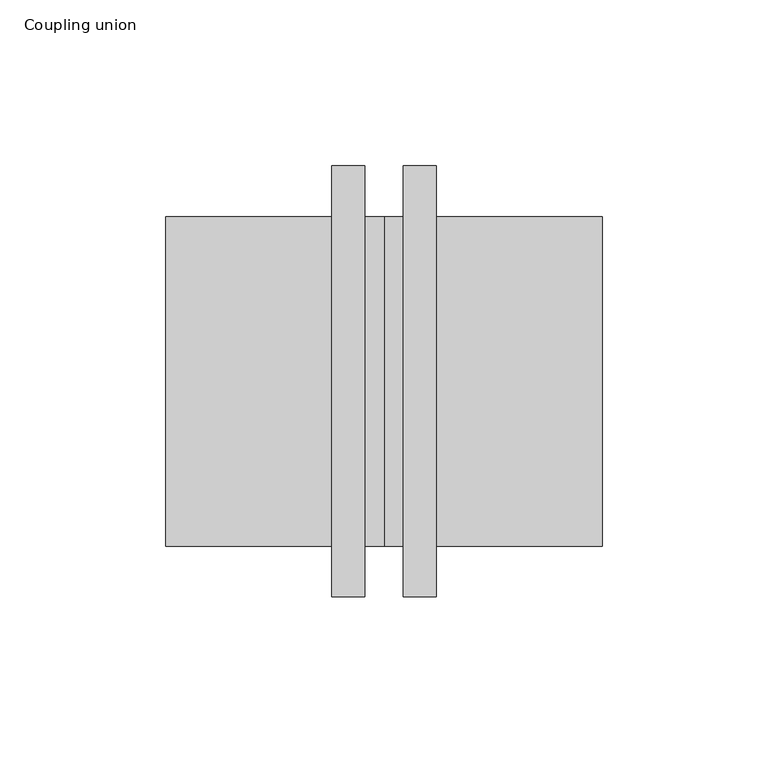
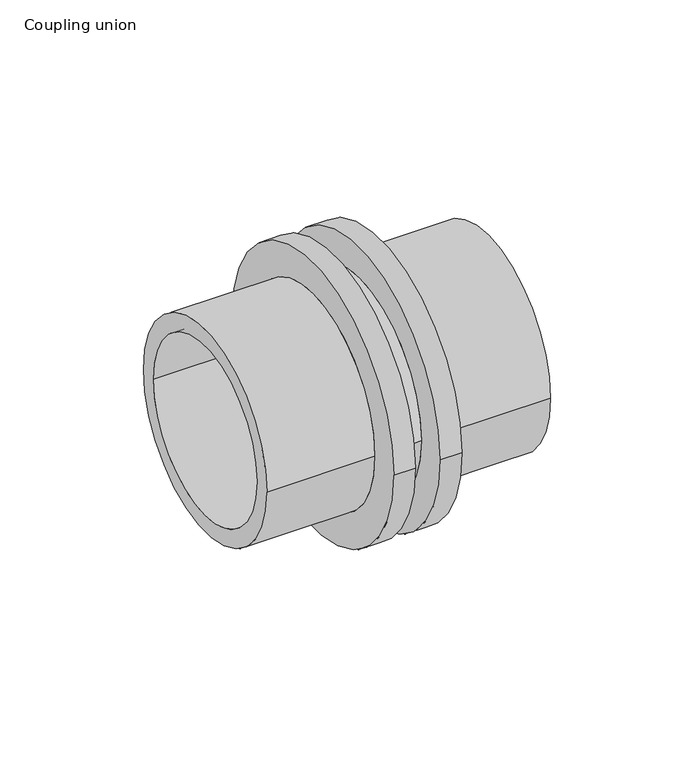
"""IFC4 building model written with IfcOpenShell, lengths in millimetres: pipe fitting geometry, Coupling union : C EQ SDR11 RX."""

from ifc_helpers import new_model, si_unit, frame, origin, place, context, project, spatial, polyline, circle_curve, source, transform, mapped, element, save
from ifc_brep_helpers import plane_surface, cylinder_surface, revolved_surface, advanced_brep


def coupling_union_132477e5(model_context):
    return source(origin(), model_context, "Body", "AdvancedBrep", [
        advanced_brep(
        [(15.8, 65.0, 0.0), (15.8, -65.0, 0.0), (5.8, -65.0, 0.0), (5.8, 65.0, 0.0), (65.8, 49.65, 0.0), (65.8, -49.65, 0.0), (15.8, -49.65, 0.0), (15.8, 49.65, 0.0), (-65.8, 41.5, 0.0), (-65.8, -41.5, 0.0), (65.8, -41.5, 0.0), (65.8, 41.5, 0.0), (-15.8, 49.65, 0.0), (-15.8, -49.65, 0.0), (-65.8, -49.65, 0.0), (-65.8, 49.65, 0.0), (-5.8, 65.0, 0.0), (-5.8, -65.0, 0.0), (-15.8, -65.0, 0.0), (-15.8, 65.0, 0.0), (0.0, 49.65, 0.0), (0.0, -49.65, 0.0), (-5.8, -49.65, 0.0), (-5.8, 49.65, 0.0), (5.8, 49.65, 0.0), (5.8, -49.65, 0.0)],
        [
            (0, 1, circle_curve(frame((15.8, 0.0, 0.0), z_axis=(-1.0, 0.0, 0.0), x_axis=(0.0, -1.0, 0.0)), 65.0)),
            (1, 2),
            (2, 3, circle_curve(frame((5.8, 0.0, 0.0), z_axis=(1.0, 0.0, 0.0), x_axis=(0.0, -1.0, 0.0)), 65.0)),
            (3, 0),
            (4, 5, circle_curve(frame((65.8, 0.0, 0.0), z_axis=(-1.0, 0.0, 0.0), x_axis=(0.0, -1.0, 0.0)), 49.65)),
            (5, 6),
            (6, 7, circle_curve(frame((15.8, 0.0, 0.0), z_axis=(1.0, 0.0, 0.0), x_axis=(0.0, -1.0, 0.0)), 49.65)),
            (7, 4),
            (8, 9, circle_curve(frame((-65.8, 0.0, 0.0), z_axis=(-1.0, 0.0, 0.0), x_axis=(0.0, -1.0, 0.0)), 41.5)),
            (9, 10),
            (10, 11, circle_curve(frame((65.8, 0.0, 0.0), z_axis=(1.0, 0.0, 0.0), x_axis=(0.0, -1.0, 0.0)), 41.5)),
            (11, 8),
            (12, 13, circle_curve(frame((-15.8, 0.0, 0.0), z_axis=(-1.0, 0.0, 0.0), x_axis=(0.0, -1.0, 0.0)), 49.65)),
            (13, 14),
            (14, 15, circle_curve(frame((-65.8, 0.0, 0.0), z_axis=(1.0, 0.0, 0.0), x_axis=(0.0, -1.0, 0.0)), 49.65)),
            (15, 12),
            (16, 17, circle_curve(frame((-5.8, 0.0, 0.0), z_axis=(-1.0, 0.0, 0.0), x_axis=(0.0, -1.0, 0.0)), 65.0)),
            (17, 18),
            (18, 19, circle_curve(frame((-15.8, 0.0, 0.0), z_axis=(1.0, 0.0, 0.0), x_axis=(0.0, -1.0, 0.0)), 65.0)),
            (19, 16),
            (20, 21, circle_curve(frame((0.0, 0.0, 0.0), z_axis=(-1.0, 0.0, 0.0), x_axis=(0.0, -1.0, 0.0)), 49.65)),
            (21, 22),
            (22, 23, circle_curve(frame((-5.8, 0.0, 0.0), z_axis=(1.0, 0.0, 0.0), x_axis=(0.0, -1.0, 0.0)), 49.65)),
            (23, 20),
            (24, 25, circle_curve(frame((5.8, 0.0, 0.0), z_axis=(-1.0, 0.0, 0.0), x_axis=(0.0, -1.0, 0.0)), 49.65)),
            (25, 21),
            (20, 24),
            (1, 0, circle_curve(frame((15.8, 0.0, 0.0), z_axis=(-1.0, 0.0, 0.0), x_axis=(0.0, 1.0, 0.0)), 65.0)),
            (3, 2, circle_curve(frame((5.8, 0.0, 0.0), z_axis=(1.0, 0.0, 0.0), x_axis=(0.0, 1.0, 0.0)), 65.0)),
            (6, 7, circle_curve(frame((15.8, 0.0, 0.0), z_axis=(-1.0, 0.0, 0.0), x_axis=(0.0, 1.0, 0.0)), 49.65)),
            (5, 4, circle_curve(frame((65.8, 0.0, 0.0), z_axis=(-1.0, 0.0, 0.0), x_axis=(0.0, 1.0, 0.0)), 49.65)),
            (10, 11, circle_curve(frame((65.8, 0.0, 0.0), z_axis=(-1.0, 0.0, 0.0), x_axis=(0.0, 1.0, 0.0)), 41.5)),
            (9, 8, circle_curve(frame((-65.8, 0.0, 0.0), z_axis=(-1.0, 0.0, 0.0), x_axis=(0.0, 1.0, 0.0)), 41.5)),
            (14, 15, circle_curve(frame((-65.8, 0.0, 0.0), z_axis=(-1.0, 0.0, 0.0), x_axis=(0.0, 1.0, 0.0)), 49.65)),
            (13, 12, circle_curve(frame((-15.8, 0.0, 0.0), z_axis=(-1.0, 0.0, 0.0), x_axis=(0.0, 1.0, 0.0)), 49.65)),
            (18, 19, circle_curve(frame((-15.8, 0.0, 0.0), z_axis=(-1.0, 0.0, 0.0), x_axis=(0.0, 1.0, 0.0)), 65.0)),
            (17, 16, circle_curve(frame((-5.8, 0.0, 0.0), z_axis=(-1.0, 0.0, 0.0), x_axis=(0.0, 1.0, 0.0)), 65.0)),
            (22, 23, circle_curve(frame((-5.8, 0.0, 0.0), z_axis=(-1.0, 0.0, 0.0), x_axis=(0.0, 1.0, 0.0)), 49.65)),
            (21, 20, circle_curve(frame((0.0, 0.0, 0.0), z_axis=(-1.0, 0.0, 0.0), x_axis=(0.0, 1.0, 0.0)), 49.65)),
            (25, 24, circle_curve(frame((5.8, 0.0, 0.0), z_axis=(-1.0, 0.0, 0.0), x_axis=(0.0, 1.0, 0.0)), 49.65)),
        ],
        [
            cylinder_surface(frame((0.0, 0.0, 0.0), z_axis=(1.0, 0.0, 0.0), x_axis=(0.0, -1.0, 0.0)), 65.0),
            cylinder_surface(frame((0.0, 0.0, 0.0), z_axis=(1.0, 0.0, 0.0), x_axis=(0.0, -1.0, 0.0)), 49.65),
            revolved_surface(polyline([(65.8, -41.5, 0.0), (-65.8, -41.5, 0.0)]), (0.0, 0.0, 0.0), (1.0, 0.0, 0.0)),
            cylinder_surface(frame((0.0, 0.0, 0.0), z_axis=(1.0, 0.0, 0.0), x_axis=(0.0, 1.0, 0.0)), 65.0),
            plane_surface(frame((15.8, 0.0, 0.0), z_axis=(1.0, 0.0, 0.0), x_axis=(0.0, 1.0, 0.0))),
            cylinder_surface(frame((0.0, 0.0, 0.0), z_axis=(1.0, 0.0, 0.0), x_axis=(0.0, 1.0, 0.0)), 49.65),
            plane_surface(frame((65.8, 0.0, 0.0), z_axis=(1.0, 0.0, 0.0), x_axis=(0.0, 1.0, 0.0))),
            revolved_surface(polyline([(65.8, 41.5, 0.0), (-65.8, 41.5, 0.0)]), (0.0, 0.0, 0.0), (1.0, 0.0, 0.0)),
            plane_surface(frame((-65.8, 0.0, 0.0), z_axis=(-1.0, 0.0, 0.0), x_axis=(0.0, 1.0, 0.0))),
            plane_surface(frame((-15.8, 0.0, 0.0), z_axis=(-1.0, 0.0, 0.0), x_axis=(0.0, 1.0, 0.0))),
            plane_surface(frame((-5.8, 0.0, 0.0), z_axis=(1.0, 0.0, 0.0), x_axis=(0.0, 1.0, 0.0))),
            plane_surface(frame((5.8, 0.0, 0.0), z_axis=(-1.0, 0.0, 0.0), x_axis=(0.0, 1.0, 0.0))),
        ],
        [
            (0, [[1, 2, 3, 4]]),
            (1, [[5, 6, 7, 8]]),
            (2, [[9, 10, 11, 12]]),
            (1, [[13, 14, 15, 16]]),
            (0, [[17, 18, 19, 20]]),
            (1, [[21, 22, 23, 24]]),
            (1, [[25, 26, -21, 27]]),
            (3, [[28, -4, 29, -2]]),
            (4, [[-28, -1], [30, -7]]),
            (5, [[31, -8, -30, -6]]),
            (6, [[-31, -5], [32, -11]]),
            (7, [[33, -12, -32, -10]]),
            (8, [[34, -15], [-33, -9]]),
            (5, [[35, -16, -34, -14]]),
            (9, [[36, -19], [-35, -13]]),
            (3, [[37, -20, -36, -18]]),
            (10, [[-37, -17], [38, -23]]),
            (5, [[39, -24, -38, -22]]),
            (5, [[40, -27, -39, -26]]),
            (11, [[-29, -3], [-40, -25]]),
        ],
    ),
    ])


if __name__ == "__main__":
    model = new_model("IFC4")
    model_context = context("Model", 3, world=origin())
    ifc_project = project(units=[si_unit("LENGTHUNIT", "METRE", prefix="MILLI")], contexts=[model_context])
    site = spatial("IfcSite", under=ifc_project)
    building = spatial("IfcBuilding", under=site)
    placement = place(None, origin())
    coupling_union_shape = coupling_union_132477e5(model_context)
    element("IfcPipeFitting", 1, ObjectType="Coupling union : C EQ SDR11 RX", at=placement, inside=building, context=model_context, shape_type="MappedRepresentation", body=[
        mapped(coupling_union_shape, transform((0.0, 0.0, 0.0), x_axis=(1.0, 0.0, 0.0), y_axis=(0.0, 1.0, 0.0), z_axis=(0.0, 0.0, 1.0))),
    ])
    save(model, "model.ifc")
